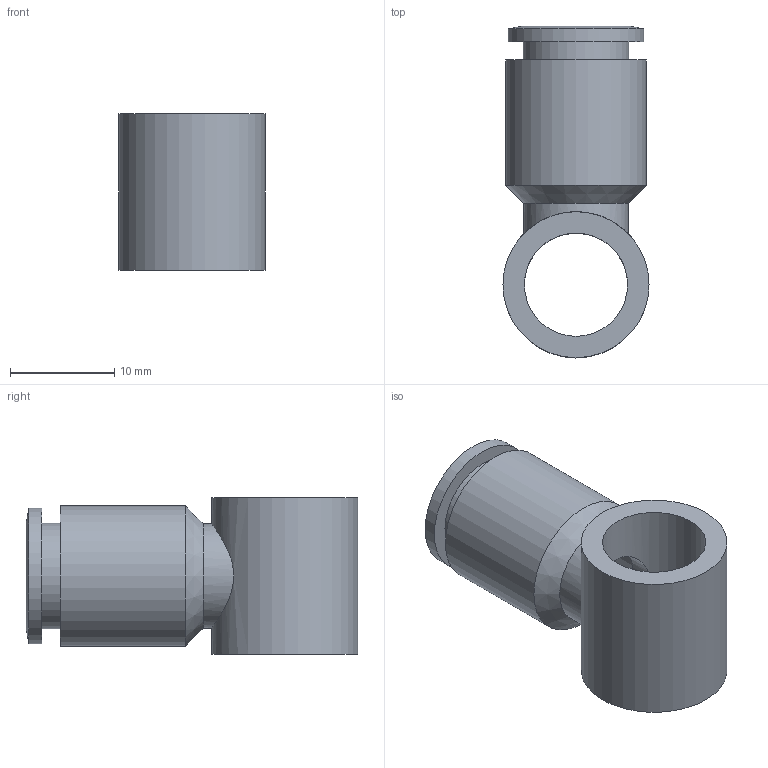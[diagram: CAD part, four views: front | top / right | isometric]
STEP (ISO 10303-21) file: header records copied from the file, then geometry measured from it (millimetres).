
FILE_DESCRIPTION((''),'2;1');
FILE_NAME('C:\Documents and Settings\rivolro1\Documenti\copia di Raccordi\PLASTICA\T13XXXX\T130818.stp','2007-10-30T17:37:23',('Rivolro1'),(''),'Autodesk Inventor 2008','Autodesk Inventor 2008','');
FILE_SCHEMA(('AUTOMOTIVE_DESIGN { 1 0 10303 214 1 1 1 1 }'));
Length unit declared in the file: millimetre
Products named in the file (1): T130818
Bounding box: 14 x 31.8 x 15 mm (x, y, z)
Volume: 2465.1 mm3; surface area: 2660.3 mm2
Topology: 1 solids, 1 shells, 16 faces, 27 edges, 17 vertices
Faces by surface type: cylinder 6, plane 5, bspline 3, cone 2
Full cylindrical faces by diameter (mm): 9.9 x1, 10 x1, 10.1 x1, 13 x1, 13.5 x1, 14 x1
Entity records: 546 total; most frequent: CARTESIAN_POINT 229, DIRECTION 58, ORIENTED_EDGE 34, EDGE_LOOP 34, AXIS2_PLACEMENT_3D 29, FACE_BOUND 18, VERTEX_POINT 17, EDGE_CURVE 17
